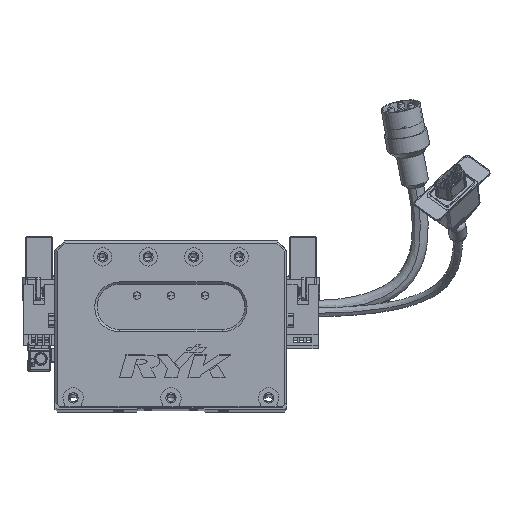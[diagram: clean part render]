
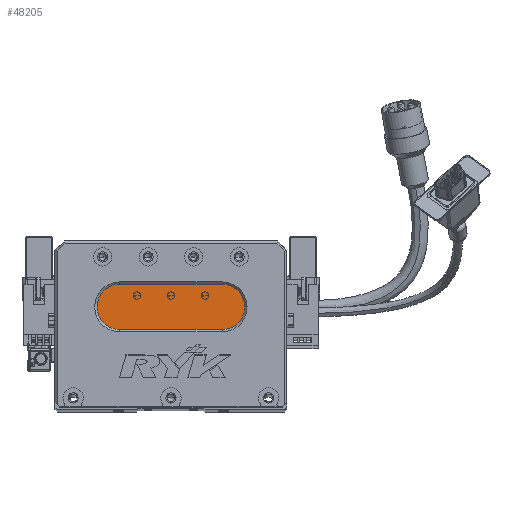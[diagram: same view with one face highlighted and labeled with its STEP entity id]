
A CAD part, top view. The second image highlights one B-rep face of the part: STEP entity #48205.
In plain terms, the highlighted planar face has unit normal (0, 0, 1) as drawn and (0, 0, -1) by its records, which use the part's own axes.
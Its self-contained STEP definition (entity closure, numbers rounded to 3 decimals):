
#2609 = CARTESIAN_POINT ( 'NONE',  ( 73.5, 34., 13. ) ) ;
#2786 = AXIS2_PLACEMENT_3D ( 'NONE', #55900, #25145, #60871 ) ;
#7342 = VERTEX_POINT ( 'NONE', #51169 ) ;
#7417 = VECTOR ( 'NONE', #23506, 1000. ) ;
#8022 = EDGE_CURVE ( 'NONE', #56046, #7342, #10287, .T. ) ;
#8078 = DIRECTION ( 'NONE',  ( 0., 0., -1. ) ) ;
#9846 = LINE ( 'NONE', #2609, #7417 ) ;
#10287 = LINE ( 'NONE', #10355, #63376 ) ;
#10355 = CARTESIAN_POINT ( 'NONE',  ( 73.5, 54., 13. ) ) ;
#13244 = DIRECTION ( 'NONE',  ( -1., 0., 0. ) ) ;
#19211 = VERTEX_POINT ( 'NONE', #39798 ) ;
#20036 = ORIENTED_EDGE ( 'NONE', *, *, #29632, .T. ) ;
#20646 = CIRCLE ( 'NONE', #2786, 10. ) ;
#22111 = CIRCLE ( 'NONE', #27814, 10. ) ;
#22116 = CARTESIAN_POINT ( 'NONE',  ( 28.5, 34., 13. ) ) ;
#22138 = EDGE_CURVE ( 'NONE', #7342, #53448, #45547, .T. ) ;
#23349 = DIRECTION ( 'NONE',  ( 0., 0., -1. ) ) ;
#23506 = DIRECTION ( 'NONE',  ( -1., 0., 0. ) ) ;
#23515 = EDGE_LOOP ( 'NONE', ( #57107, #53352, #48489, #20036, #43614 ) ) ;
#23825 = CARTESIAN_POINT ( 'NONE',  ( 73.5, 44., 13. ) ) ;
#24938 = VERTEX_POINT ( 'NONE', #22116 ) ;
#25145 = DIRECTION ( 'NONE',  ( 0., 0., -1. ) ) ;
#27409 = AXIS2_PLACEMENT_3D ( 'NONE', #23825, #8078, #13244 ) ;
#27814 = AXIS2_PLACEMENT_3D ( 'NONE', #60181, #23349, #44016 ) ;
#29632 = EDGE_CURVE ( 'NONE', #19211, #56046, #22111, .T. ) ;
#29896 = CARTESIAN_POINT ( 'NONE',  ( 73.5, 44., 13. ) ) ;
#34843 = PLANE ( 'NONE',  #65276 ) ;
#35832 = CARTESIAN_POINT ( 'NONE',  ( 73.5, 34., 13. ) ) ;
#36264 = CARTESIAN_POINT ( 'NONE',  ( 28.5, 54., 13. ) ) ;
#39798 = CARTESIAN_POINT ( 'NONE',  ( 18.5, 44., 13. ) ) ;
#43614 = ORIENTED_EDGE ( 'NONE', *, *, #8022, .T. ) ;
#44016 = DIRECTION ( 'NONE',  ( -1., 0., 0. ) ) ;
#45547 = CIRCLE ( 'NONE', #27409, 10. ) ;
#46299 = DIRECTION ( 'NONE',  ( 1., 0., 0. ) ) ;
#48205 = ADVANCED_FACE ( 'NONE', ( #63052 ), #34843, .T. ) ;
#48489 = ORIENTED_EDGE ( 'NONE', *, *, #65521, .T. ) ;
#50992 = DIRECTION ( 'NONE',  ( -1., 0., 0. ) ) ;
#51169 = CARTESIAN_POINT ( 'NONE',  ( 73.5, 54., 13. ) ) ;
#53352 = ORIENTED_EDGE ( 'NONE', *, *, #61479, .T. ) ;
#53448 = VERTEX_POINT ( 'NONE', #35832 ) ;
#55900 = CARTESIAN_POINT ( 'NONE',  ( 28.5, 44., 13. ) ) ;
#56046 = VERTEX_POINT ( 'NONE', #36264 ) ;
#56832 = DIRECTION ( 'NONE',  ( 0., 0., -1. ) ) ;
#57107 = ORIENTED_EDGE ( 'NONE', *, *, #22138, .T. ) ;
#60181 = CARTESIAN_POINT ( 'NONE',  ( 28.5, 44., 13. ) ) ;
#60871 = DIRECTION ( 'NONE',  ( -1., 0., 0. ) ) ;
#61479 = EDGE_CURVE ( 'NONE', #53448, #24938, #9846, .T. ) ;
#63052 = FACE_OUTER_BOUND ( 'NONE', #23515, .T. ) ;
#63376 = VECTOR ( 'NONE', #46299, 1000. ) ;
#65276 = AXIS2_PLACEMENT_3D ( 'NONE', #29896, #56832, #50992 ) ;
#65521 = EDGE_CURVE ( 'NONE', #24938, #19211, #20646, .T. ) ;
